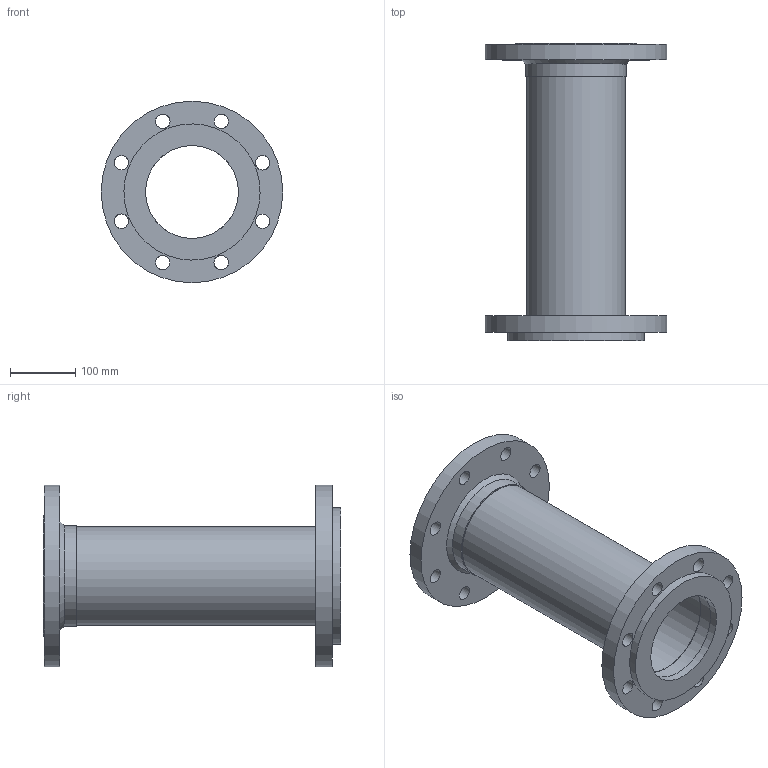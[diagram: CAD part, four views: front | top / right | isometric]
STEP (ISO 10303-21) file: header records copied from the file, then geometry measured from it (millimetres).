
FILE_DESCRIPTION(/* description */ (''),/* implementation_level */ '2;1');
FILE_NAME(/* name */ 'C:\001_Work\Designs\FFL2B-300\FFL2B-300-5x18.stp',/* time_stamp */ '2016-06-14T10:49:12-04:00',/* author */ ('rramoutar'),/* organization */ ('Mason Industries Inc.'),/* preprocessor_version */ 'ST-DEVELOPER v15.6',/* originating_system */ 'Autodesk Inventor 2015',/* authorisation */ '');
FILE_SCHEMA (('CONFIG_CONTROL_DESIGN'));
Length unit declared in the file: inch
Products named in the file (1): FFL2B-300-5x18
Bounding box: 279.4 x 457.2 x 279.4 mm (x, y, z)
Volume: 2378093.9 mm3; surface area: 676632.4 mm2
Topology: 1 solids, 1 shells, 43 faces, 113 edges, 81 vertices
Faces by surface type: cylinder 29, plane 11, cone 3
Full cylindrical faces by diameter (mm): 22.225 x16, 142.875 x2, 150.114 x3, 151.13 x1, 154.876 x2, 160.337 x1, 185.737 x1, 209.55 x1, 279.4 x2
Entity records: 1195 total; most frequent: DIRECTION 210, CARTESIAN_POINT 166, ORIENTED_EDGE 122, EDGE_LOOP 118, AXIS2_PLACEMENT_3D 105, FACE_BOUND 75, CIRCLE 61, VERTEX_POINT 61
